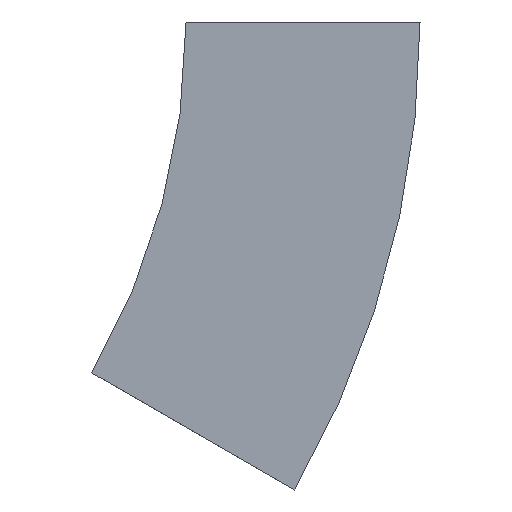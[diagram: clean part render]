
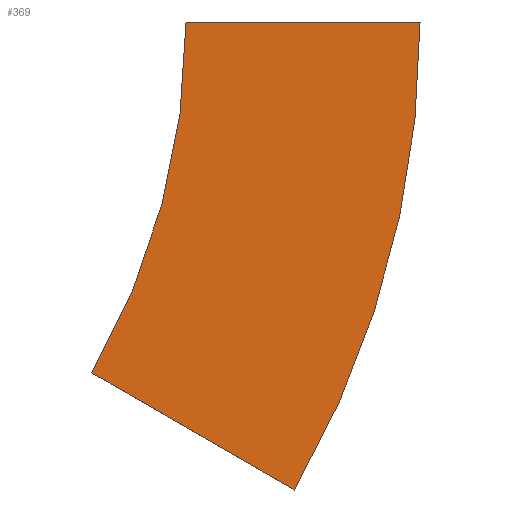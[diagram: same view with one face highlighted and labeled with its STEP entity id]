
A CAD part, left-side view. The second image highlights one B-rep face of the part: STEP entity #369.
In plain terms, the highlighted planar face has unit normal (-1, 0, 0) as drawn and (1, 0, 0) by its records, which use the part's own axes.
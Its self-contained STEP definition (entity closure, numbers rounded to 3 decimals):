
#17 = CARTESIAN_POINT ( 'NONE',  ( 0., -100., 0. ) ) ;
#21 = EDGE_CURVE ( 'NONE', #95, #377, #105, .T. ) ;
#41 = FACE_OUTER_BOUND ( 'NONE', #282, .T. ) ;
#48 = AXIS2_PLACEMENT_3D ( 'NONE', #268, #446, #392 ) ;
#81 = EDGE_CURVE ( 'NONE', #442, #377, #232, .T. ) ;
#84 = DIRECTION ( 'NONE',  ( 1., 0., 0. ) ) ;
#95 = VERTEX_POINT ( 'NONE', #170 ) ;
#103 = DIRECTION ( 'NONE',  ( 1., 0., 0. ) ) ;
#105 = LINE ( 'NONE', #453, #391 ) ;
#143 = CARTESIAN_POINT ( 'NONE',  ( 0., 300., 0. ) ) ;
#148 = EDGE_CURVE ( 'NONE', #171, #442, #413, .T. ) ;
#170 = CARTESIAN_POINT ( 'NONE',  ( 0., -46.41, -200. ) ) ;
#171 = VERTEX_POINT ( 'NONE', #522 ) ;
#212 = ORIENTED_EDGE ( 'NONE', *, *, #21, .T. ) ;
#232 = CIRCLE ( 'NONE', #542, 300. ) ;
#256 = CARTESIAN_POINT ( 'NONE',  ( 0., 0., 0. ) ) ;
#268 = CARTESIAN_POINT ( 'NONE',  ( 0., -100., 0. ) ) ;
#273 = DIRECTION ( 'NONE',  ( 0., -1., 0. ) ) ;
#282 = EDGE_LOOP ( 'NONE', ( #352, #297, #354, #212 ) ) ;
#297 = ORIENTED_EDGE ( 'NONE', *, *, #148, .F. ) ;
#310 = PLANE ( 'NONE',  #48 ) ;
#320 = CIRCLE ( 'NONE', #381, 400. ) ;
#351 = DIRECTION ( 'NONE',  ( 0., -1., 0. ) ) ;
#352 = ORIENTED_EDGE ( 'NONE', *, *, #81, .F. ) ;
#354 = ORIENTED_EDGE ( 'NONE', *, *, #560, .T. ) ;
#369 = ADVANCED_FACE ( 'NONE', ( #41 ), #310, .F. ) ;
#371 = DIRECTION ( 'NONE',  ( 0., 1., 0. ) ) ;
#377 = VERTEX_POINT ( 'NONE', #562 ) ;
#381 = AXIS2_PLACEMENT_3D ( 'NONE', #143, #103, #273 ) ;
#391 = VECTOR ( 'NONE', #410, 1000. ) ;
#392 = DIRECTION ( 'NONE',  ( 0., 0., 1. ) ) ;
#410 = DIRECTION ( 'NONE',  ( 0., 0.866, 0.5 ) ) ;
#413 = LINE ( 'NONE', #17, #487 ) ;
#434 = CARTESIAN_POINT ( 'NONE',  ( 0., 300., 0. ) ) ;
#442 = VERTEX_POINT ( 'NONE', #256 ) ;
#446 = DIRECTION ( 'NONE',  ( -1., 0., 0. ) ) ;
#453 = CARTESIAN_POINT ( 'NONE',  ( 0., -46.41, -200. ) ) ;
#487 = VECTOR ( 'NONE', #371, 1000. ) ;
#522 = CARTESIAN_POINT ( 'NONE',  ( 0., -100., 0. ) ) ;
#542 = AXIS2_PLACEMENT_3D ( 'NONE', #434, #84, #351 ) ;
#560 = EDGE_CURVE ( 'NONE', #171, #95, #320, .T. ) ;
#562 = CARTESIAN_POINT ( 'NONE',  ( 0., 40.192, -150. ) ) ;
